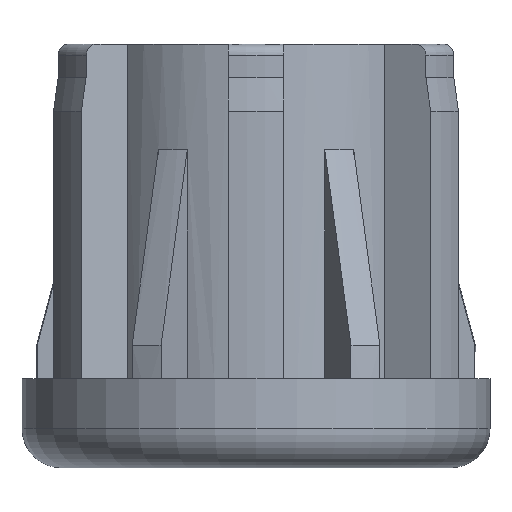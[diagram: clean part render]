
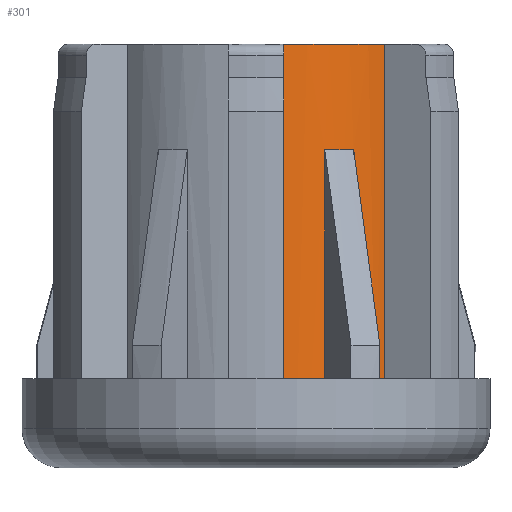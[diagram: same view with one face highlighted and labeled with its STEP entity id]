
A CAD part, front view. The second image highlights one B-rep face of the part: STEP entity #301.
In plain terms, the highlighted cylindrical face has radius 15 mm (diameter 30 mm), a partial arc.
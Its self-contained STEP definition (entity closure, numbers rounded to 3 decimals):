
#3 = DIRECTION ( 'NONE',  ( 1., 0., 0. ) ) ;
#4 = DIRECTION ( 'NONE',  ( 1., 0., 0. ) ) ;
#10 = CARTESIAN_POINT ( 'NONE',  ( 81.712, 312.379, 30. ) ) ;
#19 = CARTESIAN_POINT ( 'NONE',  ( 70.153, 321.939, 0. ) ) ;
#131 = EDGE_LOOP ( 'NONE', ( #3234, #1752, #2314, #349, #2268, #1767, #599, #3007 ) ) ;
#148 = CARTESIAN_POINT ( 'NONE',  ( 72.653, 307.149, 30. ) ) ;
#162 = CARTESIAN_POINT ( 'NONE',  ( 78.914, 309.764, 20.541 ) ) ;
#256 = DIRECTION ( 'NONE',  ( 1., 0., 0. ) ) ;
#301 = ADVANCED_FACE ( 'NONE', ( #2506 ), #2502, .T. ) ;
#340 = VERTEX_POINT ( 'NONE', #2417 ) ;
#349 = ORIENTED_EDGE ( 'NONE', *, *, #2202, .F. ) ;
#530 = DIRECTION ( 'NONE',  ( 0., 0., 1. ) ) ;
#545 = CARTESIAN_POINT ( 'NONE',  ( 72.653, 307.149, 30. ) ) ;
#574 = CARTESIAN_POINT ( 'NONE',  ( 70.153, 321.939, 0. ) ) ;
#599 = ORIENTED_EDGE ( 'NONE', *, *, #1171, .T. ) ;
#628 = CARTESIAN_POINT ( 'NONE',  ( 70.153, 321.939, 30. ) ) ;
#795 = CIRCLE ( 'NONE', #3039, 15. ) ;
#821 = LINE ( 'NONE', #148, #3049 ) ;
#874 = VERTEX_POINT ( 'NONE', #162 ) ;
#883 = EDGE_CURVE ( 'NONE', #1756, #1447, #821, .T. ) ;
#1089 = EDGE_CURVE ( 'NONE', #874, #2891, #1110, .T. ) ;
#1110 = CIRCLE ( 'NONE', #1239, 15. ) ;
#1112 = DIRECTION ( 'NONE',  ( 0., 0., 1. ) ) ;
#1119 = CIRCLE ( 'NONE', #3006, 15. ) ;
#1148 = EDGE_CURVE ( 'NONE', #2515, #340, #2068, .T. ) ;
#1157 = LINE ( 'NONE', #1206, #1201 ) ;
#1158 = CARTESIAN_POINT ( 'NONE',  ( 72.653, 307.149, 0. ) ) ;
#1163 = DIRECTION ( 'NONE',  ( -1., 0., 0. ) ) ;
#1171 = EDGE_CURVE ( 'NONE', #1905, #340, #795, .T. ) ;
#1201 = VECTOR ( 'NONE', #1724, 1000. ) ;
#1206 = CARTESIAN_POINT ( 'NONE',  ( 76.316, 308.264, 30. ) ) ;
#1239 = AXIS2_PLACEMENT_3D ( 'NONE', #2036, #1246, #1528 ) ;
#1246 = DIRECTION ( 'NONE',  ( 0., 0., -1. ) ) ;
#1347 = DIRECTION ( 'NONE',  ( 0., 0., 1. ) ) ;
#1447 = VERTEX_POINT ( 'NONE', #1158 ) ;
#1528 = DIRECTION ( 'NONE',  ( -1., 0., 0. ) ) ;
#1632 = CARTESIAN_POINT ( 'NONE',  ( 76.316, 308.264, 20.541 ) ) ;
#1669 = AXIS2_PLACEMENT_3D ( 'NONE', #2909, #1347, #4 ) ;
#1707 = EDGE_CURVE ( 'NONE', #1756, #2515, #2542, .T. ) ;
#1724 = DIRECTION ( 'NONE',  ( 0., 0., -1. ) ) ;
#1730 = CARTESIAN_POINT ( 'NONE',  ( 76.316, 308.264, 0. ) ) ;
#1734 = VECTOR ( 'NONE', #3122, 1000. ) ;
#1752 = ORIENTED_EDGE ( 'NONE', *, *, #883, .T. ) ;
#1756 = VERTEX_POINT ( 'NONE', #545 ) ;
#1767 = ORIENTED_EDGE ( 'NONE', *, *, #2180, .T. ) ;
#1845 = LINE ( 'NONE', #3231, #3341 ) ;
#1905 = VERTEX_POINT ( 'NONE', #2671 ) ;
#1978 = DIRECTION ( 'NONE',  ( 0., 0., -1. ) ) ;
#2036 = CARTESIAN_POINT ( 'NONE',  ( 70.153, 321.939, 20.541 ) ) ;
#2068 = LINE ( 'NONE', #10, #1734 ) ;
#2073 = AXIS2_PLACEMENT_3D ( 'NONE', #628, #2166, #1163 ) ;
#2106 = CARTESIAN_POINT ( 'NONE',  ( 81.712, 312.379, 30. ) ) ;
#2166 = DIRECTION ( 'NONE',  ( 0., 0., -1. ) ) ;
#2180 = EDGE_CURVE ( 'NONE', #874, #1905, #1845, .T. ) ;
#2202 = EDGE_CURVE ( 'NONE', #2891, #3055, #1157, .T. ) ;
#2268 = ORIENTED_EDGE ( 'NONE', *, *, #1089, .F. ) ;
#2314 = ORIENTED_EDGE ( 'NONE', *, *, #3247, .T. ) ;
#2339 = DIRECTION ( 'NONE',  ( 0., 0., -1. ) ) ;
#2417 = CARTESIAN_POINT ( 'NONE',  ( 81.712, 312.379, 0. ) ) ;
#2502 = CYLINDRICAL_SURFACE ( 'NONE', #2073, 15. ) ;
#2506 = FACE_OUTER_BOUND ( 'NONE', #131, .T. ) ;
#2515 = VERTEX_POINT ( 'NONE', #2106 ) ;
#2542 = CIRCLE ( 'NONE', #1669, 15. ) ;
#2671 = CARTESIAN_POINT ( 'NONE',  ( 78.914, 309.764, 0. ) ) ;
#2891 = VERTEX_POINT ( 'NONE', #1632 ) ;
#2909 = CARTESIAN_POINT ( 'NONE',  ( 70.153, 321.939, 30. ) ) ;
#3006 = AXIS2_PLACEMENT_3D ( 'NONE', #574, #1112, #3 ) ;
#3007 = ORIENTED_EDGE ( 'NONE', *, *, #1148, .F. ) ;
#3039 = AXIS2_PLACEMENT_3D ( 'NONE', #19, #530, #256 ) ;
#3049 = VECTOR ( 'NONE', #1978, 1000. ) ;
#3055 = VERTEX_POINT ( 'NONE', #1730 ) ;
#3122 = DIRECTION ( 'NONE',  ( 0., 0., -1. ) ) ;
#3231 = CARTESIAN_POINT ( 'NONE',  ( 78.914, 309.764, 30. ) ) ;
#3234 = ORIENTED_EDGE ( 'NONE', *, *, #1707, .F. ) ;
#3247 = EDGE_CURVE ( 'NONE', #1447, #3055, #1119, .T. ) ;
#3341 = VECTOR ( 'NONE', #2339, 1000. ) ;
